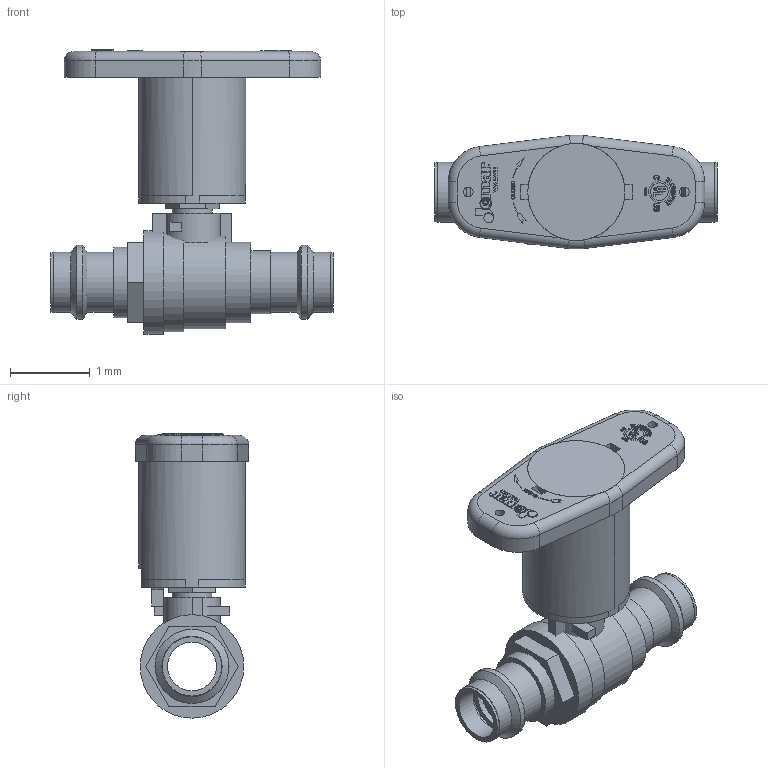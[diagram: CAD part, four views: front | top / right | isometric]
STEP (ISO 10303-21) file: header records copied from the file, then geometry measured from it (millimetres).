
FILE_DESCRIPTION(('Open CASCADE Model'),'2;1');
FILE_NAME('Open CASCADE Shape Model','2021-10-14T08:41:12',('Author'),( 'Open CASCADE'),'Open CASCADE STEP processor 7.3','Open CASCADE 7.3' ,'Unknown');
FILE_SCHEMA(('AUTOMOTIVE_DESIGN { 1 0 10303 214 1 1 1 1 }'));
Length unit declared in the file: millimetre
Products named in the file (157): Open CASCADE STEP translator 7.3 1; Open CASCADE STEP translator 7.3 1.1; Open CASCADE STEP translator 7.3 1.1.1; Open CASCADE STEP translator 7.3 1.1.2; Open CASCADE STEP translator 7.3 1.1.3; Open CASCADE STEP translator 7.3 1.1.4; Open CASCADE STEP translator 7.3 1.1.5; Open CASCADE STEP translator 7.3 1.1.6; Open CASCADE STEP translator 7.3 1.1.7; Open CASCADE STEP translator 7.3 1.1.8; Open CASCADE STEP translator 7.3 1.1.9; Open CASCADE STEP translator 7.3 1.1.10; Open CASCADE STEP translator 7.3 1.1.11; Open CASCADE STEP translator 7.3 1.1.12; Open CASCADE STEP translator 7.3 1.1.13; Open CASCADE STEP translator 7.3 1.1.14; Open CASCADE STEP translator 7.3 1.1.15; Open CASCADE STEP translator 7.3 1.1.16; Open CASCADE STEP translator 7.3 1.1.17; Open CASCADE STEP translator 7.3 1.1.18; Open CASCADE STEP translator 7.3 1.1.19; Open CASCADE STEP translator 7.3 1.1.20; Open CASCADE STEP translator 7.3 1.1.21; Open CASCADE STEP translator 7.3 1.1.22; Open CASCADE STEP translator 7.3 1.1.23; Open CASCADE STEP translator 7.3 1.1.24; Open CASCADE STEP translator 7.3 1.1.25; Open CASCADE STEP translator 7.3 1.1.26; Open CASCADE STEP translator 7.3 1.1.27; Open CASCADE STEP translator 7.3 1.1.28; Open CASCADE STEP translator 7.3 1.1.29; Open CASCADE STEP translator 7.3 1.1.30; Open CASCADE STEP translator 7.3 1.1.31; Open CASCADE STEP translator 7.3 1.1.32; Open CASCADE STEP translator 7.3 1.1.33; Open CASCADE STEP translator 7.3 1.1.34; Open CASCADE STEP translator 7.3 1.1.35; Open CASCADE STEP translator 7.3 1.1.36; Open CASCADE STEP translator 7.3 1.1.37; Open CASCADE STEP translator 7.3 1.1.38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
Assembly tree (156 placements, depth 3):
  Open CASCADE STEP translator 7.3 1
    Open CASCADE STEP translator 7.3 1.1
      Open CASCADE STEP translator 7.3 1.1.1
      Open CASCADE STEP translator 7.3 1.1.2
      Open CASCADE STEP translator 7.3 1.1.3
      Open CASCADE STEP translator 7.3 1.1.4
      Open CASCADE STEP translator 7.3 1.1.5
      Open CASCADE STEP translator 7.3 1.1.6
      Open CASCADE STEP translator 7.3 1.1.7
      Open CASCADE STEP translator 7.3 1.1.8
      Open CASCADE STEP translator 7.3 1.1.9
      Open CASCADE STEP translator 7.3 1.1.10
      Open CASCADE STEP translator 7.3 1.1.11
      Open CASCADE STEP translator 7.3 1.1.12
      Open CASCADE STEP translator 7.3 1.1.13
      Open CASCADE STEP translator 7.3 1.1.14
      Open CASCADE STEP translator 7.3 1.1.15
      Open CASCADE STEP translator 7.3 1.1.16
      Open CASCADE STEP translator 7.3 1.1.17
      Open CASCADE STEP translator 7.3 1.1.18
      Open CASCADE STEP translator 7.3 1.1.19
      Open CASCADE STEP translator 7.3 1.1.20
      Open CASCADE STEP translator 7.3 1.1.21
      Open CASCADE STEP translator 7.3 1.1.22
      Open CASCADE STEP translator 7.3 1.1.23
      Open CASCADE STEP translator 7.3 1.1.24
      Open CASCADE STEP translator 7.3 1.1.25
      Open CASCADE STEP translator 7.3 1.1.26
      Open CASCADE STEP translator 7.3 1.1.27
      Open CASCADE STEP translator 7.3 1.1.28
      Open CASCADE STEP translator 7.3 1.1.29
      Open CASCADE STEP translator 7.3 1.1.30
      Open CASCADE STEP translator 7.3 1.1.31
      Open CASCADE STEP translator 7.3 1.1.32
      Open CASCADE STEP translator 7.3 1.1.33
      Open CASCADE STEP translator 7.3 1.1.34
      Open CASCADE STEP translator 7.3 1.1.35
      Open CASCADE STEP translator 7.3 1.1.36
      Open CASCADE STEP translator 7.3 1.1.37
      Open CASCADE STEP translator 7.3 1.1.38
      Open CASCADE STEP translator 7.3 1.1.39
      Open CASCADE STEP translator 7.3 1.1.40
      Open CASCADE STEP translator 7.3 1.1.41
      Open CASCADE STEP translator 7.3 1.1.42
      Open CASCADE STEP translator 7.3 1.1.43
    Open CASCADE STEP translator 7.3 1.2
      Open CASCADE STEP translator 7.3 1.2.1
      Open CASCADE STEP translator 7.3 1.2.2
      Open CASCADE STEP translator 7.3 1.2.3
    Open CASCADE STEP translator 7.3 1.3
    Open CASCADE STEP translator 7.3 1.4
    Open CASCADE STEP translator 7.3 1.5
    Open CASCADE STEP translator 7.3 1.6
    Open CASCADE STEP translator 7.3 1.7
    Open CASCADE STEP translator 7.3 1.8
    Open CASCADE STEP translator 7.3 1.9
    Open CASCADE STEP translator 7.3 1.10
    Open CASCADE STEP translator 7.3 1.11
    Open CASCADE STEP translator 7.3 1.12
    Open CASCADE STEP translator 7.3 1.13
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Bounding box: 3.54 x 1.43 x 3.57 mm (x, y, z)
Volume: 1.5 mm3; surface area: 56.9 mm2
Topology: 45 solids, 154 shells, 2710 faces, 7888 edges, 5352 vertices
Faces by surface type: plane 2564, cylinder 128, torus 6, extrusion 6, cone 6
Full cylindrical faces by diameter (mm): 0.014 x1, 0.017 x1, 0.042 x1, 0.06 x1, 0.119 x3, 0.135 x1, 0.318 x1, 0.5 x1, 0.612 x5, 0.705 x1, 0.743 x2, 0.755 x4, 0.756 x4, 0.79 x1, 0.885 x1, 0.93 x2, 1.013 x1, 1.061 x1, 1.106 x2, 1.163 x1, 1.179 x1, 1.22 x1, 1.238 x1, 1.3 x1
Entity records: 192413 total; most frequent: CARTESIAN_POINT 33139, DIRECTION 29189, VECTOR 22602, LINE 22596, ORIENTED_EDGE 15420, PCURVE 15420, DEFINITIONAL_REPRESENTATION 15420, EDGE_CURVE 7888
